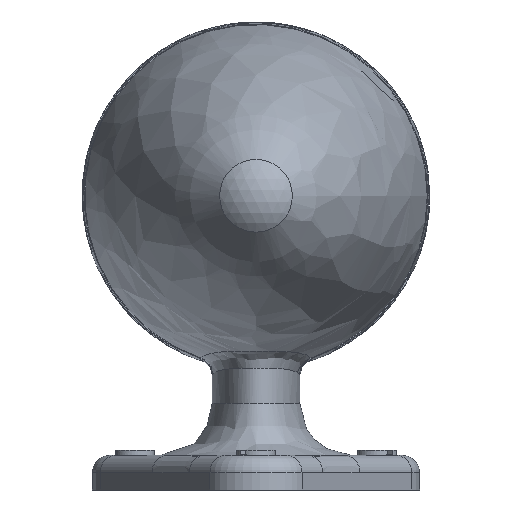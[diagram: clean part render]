
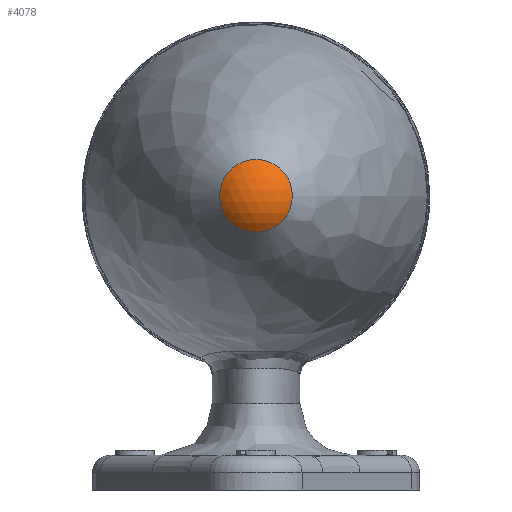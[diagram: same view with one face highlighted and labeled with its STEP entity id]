
A CAD part, left-side view. The second image highlights one B-rep face of the part: STEP entity #4078.
In plain terms, the highlighted spherical face has radius 0.895 mm.
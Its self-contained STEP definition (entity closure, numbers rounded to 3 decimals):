
#16=SPHERICAL_SURFACE('',#4363,0.895);
#1049=FACE_OUTER_BOUND('',#1274,.T.);
#1274=EDGE_LOOP('',(#3819));
#1333=CIRCLE('',#4197,0.623);
#1710=VERTEX_POINT('',#6778);
#2184=EDGE_CURVE('',#1710,#1710,#1333,.T.);
#3819=ORIENTED_EDGE('',*,*,#2184,.T.);
#4078=ADVANCED_FACE('',(#1049),#16,.T.);
#4197=AXIS2_PLACEMENT_3D('',#6780,#4616,#4617);
#4363=AXIS2_PLACEMENT_3D('',#9202,#5168,#5169);
#4616=DIRECTION('center_axis',(-1.,0.,0.));
#4617=DIRECTION('ref_axis',(0.,0.,1.));
#5168=DIRECTION('center_axis',(0.,0.,1.));
#5169=DIRECTION('ref_axis',(-1.,0.027,0.));
#6778=CARTESIAN_POINT('',(2.751,5.081,-5.25));
#6780=CARTESIAN_POINT('Origin',(2.751,5.704,-5.25));
#9202=CARTESIAN_POINT('Origin',(3.393,5.704,-5.25));
